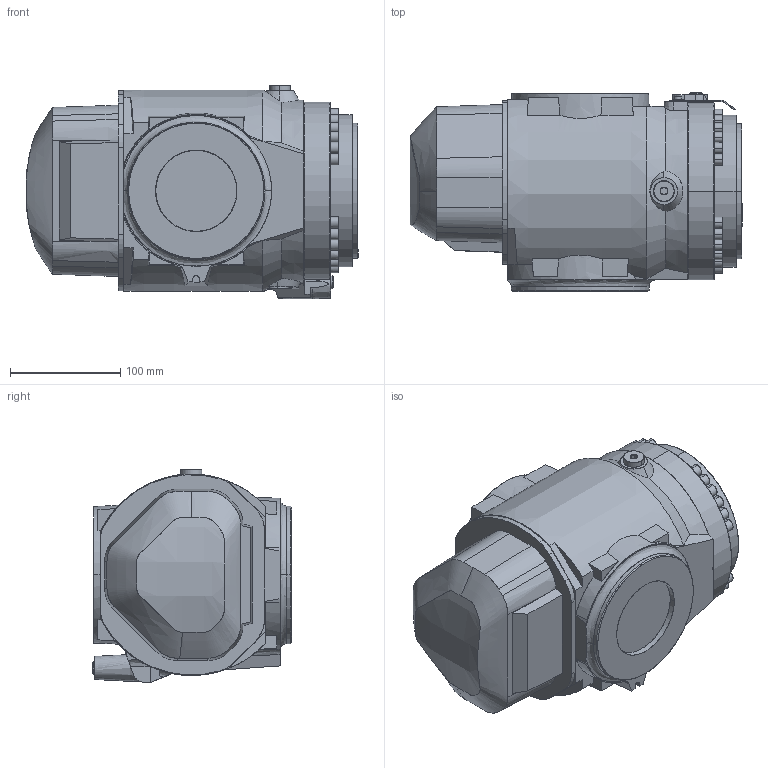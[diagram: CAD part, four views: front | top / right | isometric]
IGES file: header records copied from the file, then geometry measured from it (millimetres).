
Start section: SolidWorks IGES file using analytic representation for surfaces
Global section: file name: C:\Users\seamsto1\Desktop\Lättvikt\IRB6710_210kg-265_OC_00_SW_J\IRB6710_210kg-265_OC_00_IGES_J\IRB6710_210kg-265_OC_00_LINK05_CAD.IGS; native system: SolidWorks 2020; preprocessor: SolidWorks 2020; author: SEAMSTO1; date: 230510.112831; units: millimetre
Bounding box: 301.68 x 181 x 194.1 mm (x, y, z)
Surface area: 232286.2 mm2 (no closed solid volume)
Topology: 0 solids, 0 shells, 468 faces, 7715 edges, 7711 vertices
Faces by surface type: bspline 271, revolution 197
